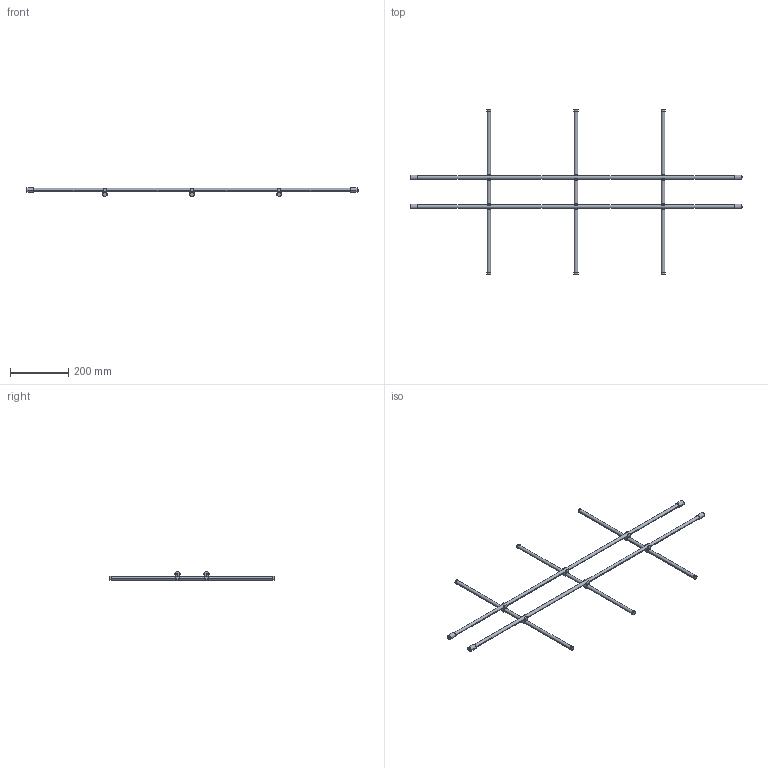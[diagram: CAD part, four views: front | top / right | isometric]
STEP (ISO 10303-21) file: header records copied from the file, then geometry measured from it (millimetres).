
FILE_DESCRIPTION (( 'STEP AP214' ), '1' );
FILE_NAME ('Magic-Classic_NL-600-KAB 1200.step', '2010-09-16T12:49:46', ( 'grass' ), ( '' ), 'SwSTEP 2.0', 'SolidWorks 2010', '' );
FILE_SCHEMA (( 'AUTOMOTIVE_DESIGN' ));
Length unit declared in the file: millimetre
Products named in the file (1): Magic-Classic_NL-600-KAB 1200
Bounding box: 1143 x 565 x 30.45 mm (x, y, z)
Volume: 474243.1 mm3; surface area: 157906.4 mm2
Topology: 1 solids, 1 shells, 190 faces, 534 edges, 356 vertices
Faces by surface type: plane 104, cylinder 86
Entity records: 6260 total; most frequent: DIRECTION 1136, CARTESIAN_POINT 1081, ORIENTED_EDGE 1068, EDGE_CURVE 534, AXIS2_PLACEMENT_3D 411, VERTEX_POINT 356, LINE 314, VECTOR 314
